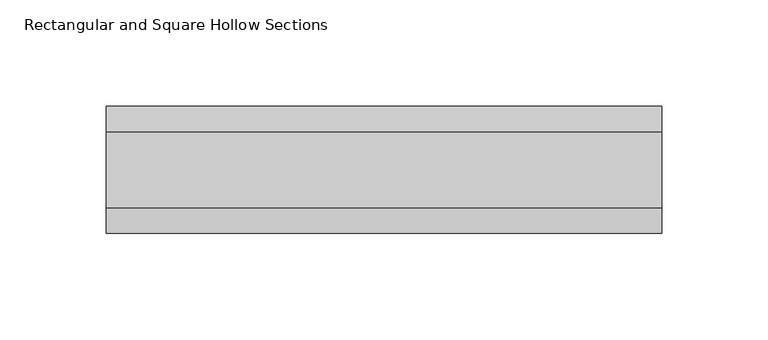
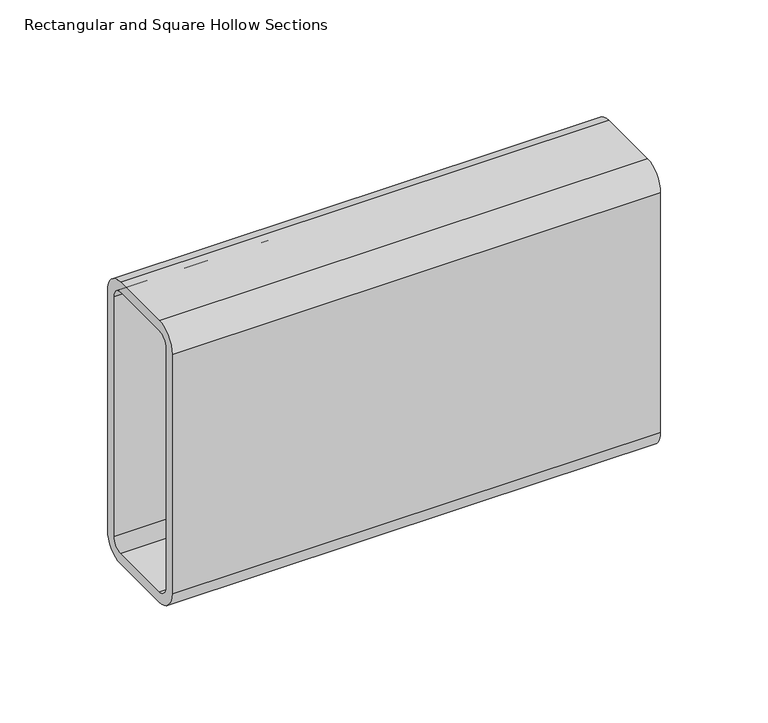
"""IFC4 building model written with IfcOpenShell, lengths in millimetres: beam geometry, Rectangular and Square Hollow Sections : TREC160x60x6."""

from ifc_helpers import new_model, si_unit, point, frame, frame_2d, origin, place, context, project, spatial, polyline, circle_curve, trimmed, segment, composite_curve, outline, extrude, source, transform, mapped, element, save


def rectangular_and_square_hollow_sections_e37f9529(model_context):
    return source(origin(), model_context, "Body", "SweptSolid", [
        extrude(outline(composite_curve([segment(polyline([(30.0, 68.0), (30.0, -68.0)]), True, "CONTINUOUS"), segment(trimmed(circle_curve(frame_2d((18.0, -68.0)), 12.0), [point((30.0, -68.0))], [point((18.0, -80.0))], False, "CARTESIAN"), True, "CONTINUOUS"), segment(polyline([(18.0, -80.0), (-18.0, -80.0)]), True, "CONTINUOUS"), segment(trimmed(circle_curve(frame_2d((-18.0, -68.0)), 12.0), [point((-18.0, -80.0))], [point((-30.0, -68.0))], False, "CARTESIAN"), True, "CONTINUOUS"), segment(polyline([(-30.0, -68.0), (-30.0, 68.0)]), True, "CONTINUOUS"), segment(trimmed(circle_curve(frame_2d((-18.0, 68.0)), 12.0), [point((-30.0, 68.0))], [point((-18.0, 80.0))], False, "CARTESIAN"), True, "CONTINUOUS"), segment(polyline([(-18.0, 80.0), (18.0, 80.0)]), True, "CONTINUOUS"), segment(trimmed(circle_curve(frame_2d((18.0, 68.0)), 12.0), [point((18.0, 80.0))], [point((30.0, 68.0))], False, "CARTESIAN"), True, "CONTINUOUS")], self_intersect=False), holes=[composite_curve([segment(trimmed(circle_curve(frame_2d((-18.0, 68.0)), 6.0), [point((-18.0, 74.0))], [point((-24.0, 68.0))], True, "CARTESIAN"), True, "CONTINUOUS"), segment(polyline([(-24.0, 68.0), (-24.0, -68.0)]), True, "CONTINUOUS"), segment(trimmed(circle_curve(frame_2d((-18.0, -68.0)), 6.0), [point((-24.0, -68.0))], [point((-18.0, -74.0))], True, "CARTESIAN"), True, "CONTINUOUS"), segment(polyline([(-18.0, -74.0), (18.0, -74.0)]), True, "CONTINUOUS"), segment(trimmed(circle_curve(frame_2d((18.0, -68.0)), 6.0), [point((18.0, -74.0))], [point((24.0, -68.0))], True, "CARTESIAN"), True, "CONTINUOUS"), segment(polyline([(24.0, -68.0), (24.0, 68.0)]), True, "CONTINUOUS"), segment(trimmed(circle_curve(frame_2d((18.0, 68.0)), 6.0), [point((24.0, 68.0))], [point((18.0, 74.0))], True, "CARTESIAN"), True, "CONTINUOUS"), segment(polyline([(18.0, 74.0), (-18.0, 74.0)]), True, "CONTINUOUS")], self_intersect=False)]), frame((-138.5, 0.0, 0.0), z_axis=(1.0, 0.0, 0.0), x_axis=(0.0, 1.0, 0.0)), (0.0, 0.0, 1.0), 262.0),
    ])


if __name__ == "__main__":
    model = new_model("IFC4")
    model_context = context("Model", 3, world=origin())
    ifc_project = project(units=[si_unit("LENGTHUNIT", "METRE", prefix="MILLI")], contexts=[model_context])
    site = spatial("IfcSite", under=ifc_project)
    building = spatial("IfcBuilding", under=site)
    placement = place(None, origin())
    rectangular_and_square_hollow_sections_shape = rectangular_and_square_hollow_sections_e37f9529(model_context)
    element("IfcBeam", 1, ObjectType="Rectangular and Square Hollow Sections : TREC160x60x6", at=placement, inside=building, context=model_context, shape_type="MappedRepresentation", body=[
        mapped(rectangular_and_square_hollow_sections_shape, transform((0.0, 0.0, 0.0), x_axis=(1.0, 0.0, 0.0), y_axis=(0.0, 1.0, 0.0), z_axis=(0.0, 0.0, 1.0))),
    ])
    save(model, "model.ifc")
